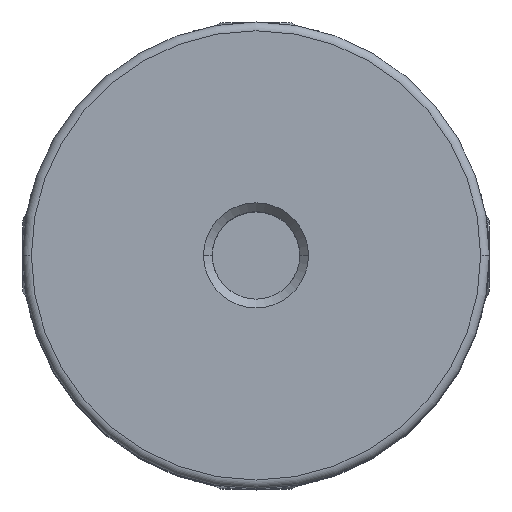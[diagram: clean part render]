
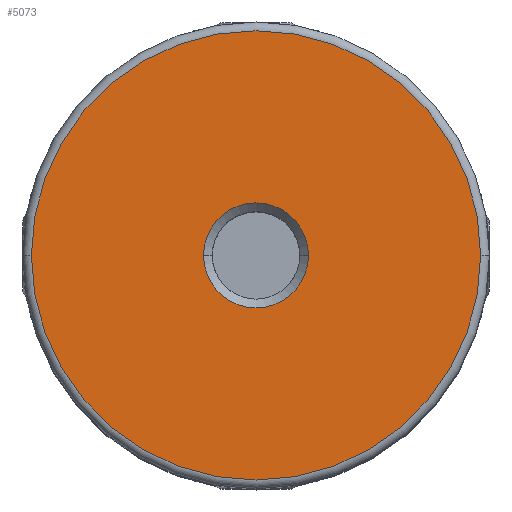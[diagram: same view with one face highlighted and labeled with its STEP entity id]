
A CAD part, top view. The second image highlights one B-rep face of the part: STEP entity #5073.
In plain terms, the highlighted planar face has unit normal (0, 0, 1).
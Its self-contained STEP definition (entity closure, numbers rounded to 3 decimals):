
#110 = AXIS2_PLACEMENT_3D ( 'NONE', #506, #511, #512 ) ;
#144 = AXIS2_PLACEMENT_3D ( 'NONE', #721, #722, #723 ) ;
#160 = AXIS2_PLACEMENT_3D ( 'NONE', #5497, #5498, #5499 ) ;
#506 = CARTESIAN_POINT ( 'NONE',  ( 0., 0., 11.95 ) ) ;
#509 = PLANE ( 'NONE',  #110 ) ;
#511 = DIRECTION ( 'NONE',  ( 0., 0., -1. ) ) ;
#512 = DIRECTION ( 'NONE',  ( -1., 0., 0. ) ) ;
#721 = CARTESIAN_POINT ( 'NONE',  ( 0., 0., 11.95 ) ) ;
#722 = DIRECTION ( 'NONE',  ( 0., 0., -1. ) ) ;
#723 = DIRECTION ( 'NONE',  ( 0., 1., 0. ) ) ;
#814 = EDGE_LOOP ( 'NONE', ( #940, #941 ) ) ;
#938 = ORIENTED_EDGE ( 'NONE', *, *, #5123, .T. ) ;
#939 = ORIENTED_EDGE ( 'NONE', *, *, #3039, .T. ) ;
#940 = ORIENTED_EDGE ( 'NONE', *, *, #3040, .T. ) ;
#941 = ORIENTED_EDGE ( 'NONE', *, *, #5159, .T. ) ;
#1208 = VERTEX_POINT ( 'NONE', #2027 ) ;
#1219 = VERTEX_POINT ( 'NONE', #2068 ) ;
#1767 = CARTESIAN_POINT ( 'NONE',  ( -1.8, 0., 11.95 ) ) ;
#2027 = CARTESIAN_POINT ( 'NONE',  ( 7.7, 0., 11.95 ) ) ;
#2068 = CARTESIAN_POINT ( 'NONE',  ( -7.7, 0., 11.95 ) ) ;
#2552 = FACE_OUTER_BOUND ( 'NONE', #814, .T. ) ;
#2554 = FACE_BOUND ( 'NONE', #2911, .T. ) ;
#2911 = EDGE_LOOP ( 'NONE', ( #938, #939 ) ) ;
#3039 = EDGE_CURVE ( 'NONE', #3467, #5875, #4187, .T. ) ;
#3040 = EDGE_CURVE ( 'NONE', #1219, #1208, #4186, .T. ) ;
#3305 = AXIS2_PLACEMENT_3D ( 'NONE', #3898, #3904, #3758 ) ;
#3306 = AXIS2_PLACEMENT_3D ( 'NONE', #3906, #3907, #3909 ) ;
#3467 = VERTEX_POINT ( 'NONE', #1767 ) ;
#3758 = DIRECTION ( 'NONE',  ( 0., 1., 0. ) ) ;
#3898 = CARTESIAN_POINT ( 'NONE',  ( 0., 0., 11.95 ) ) ;
#3904 = DIRECTION ( 'NONE',  ( 0., 0., -1. ) ) ;
#3906 = CARTESIAN_POINT ( 'NONE',  ( 0., 0., 11.95 ) ) ;
#3907 = DIRECTION ( 'NONE',  ( 0., 0., 1. ) ) ;
#3909 = DIRECTION ( 'NONE',  ( -1., 0., 0. ) ) ;
#4186 = CIRCLE ( 'NONE', #3306, 7.7 ) ;
#4187 = CIRCLE ( 'NONE', #3305, 1.8 ) ;
#4790 = CIRCLE ( 'NONE', #144, 1.8 ) ;
#4834 = CIRCLE ( 'NONE', #160, 7.7 ) ;
#5073 = ADVANCED_FACE ( 'NONE', ( #2554, #2552 ), #509, .F. ) ;
#5123 = EDGE_CURVE ( 'NONE', #5875, #3467, #4790, .T. ) ;
#5159 = EDGE_CURVE ( 'NONE', #1208, #1219, #4834, .T. ) ;
#5497 = CARTESIAN_POINT ( 'NONE',  ( 0., 0., 11.95 ) ) ;
#5498 = DIRECTION ( 'NONE',  ( 0., 0., 1. ) ) ;
#5499 = DIRECTION ( 'NONE',  ( -1., 0., 0. ) ) ;
#5709 = CARTESIAN_POINT ( 'NONE',  ( 1.8, 0., 11.95 ) ) ;
#5875 = VERTEX_POINT ( 'NONE', #5709 ) ;
